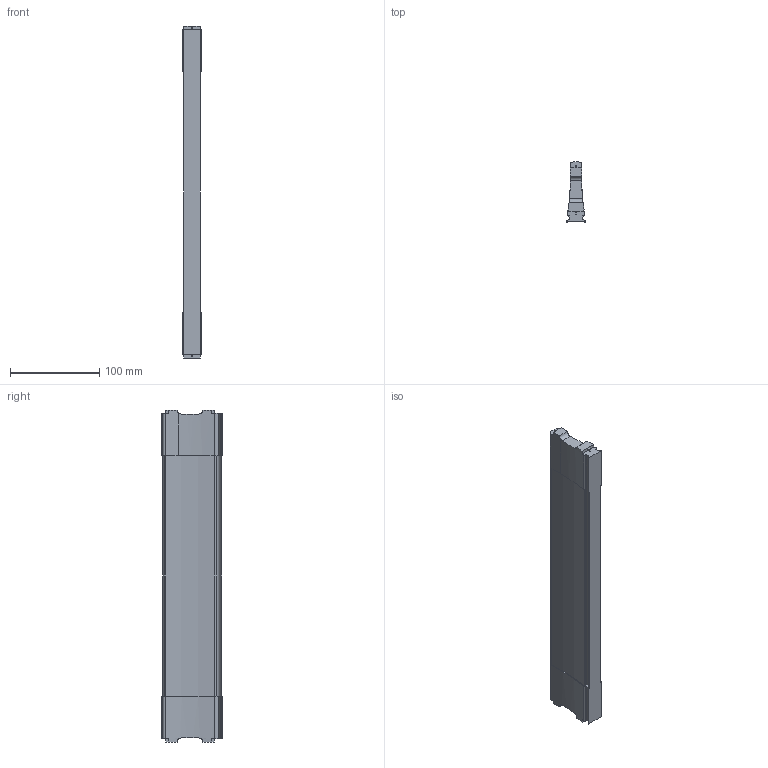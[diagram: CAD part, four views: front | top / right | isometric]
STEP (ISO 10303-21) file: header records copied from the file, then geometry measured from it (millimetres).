
FILE_DESCRIPTION (( 'STEP AP214' ), '1' );
FILE_NAME ('Traverse DWD XP NL400 Mass X368,4_montiert.step', '2010-09-21T13:16:48', ( 'grass' ), ( '' ), 'SwSTEP 2.0', 'SolidWorks 2010', '' );
FILE_SCHEMA (( 'AUTOMOTIVE_DESIGN' ));
Length unit declared in the file: millimetre
Products named in the file (1): Traverse DWD XP NL400 Mass X368,4_montiert
Bounding box: 21.4 x 67.5 x 373 mm (x, y, z)
Volume: 313951.6 mm3; surface area: 65521.2 mm2
Topology: 1 solids, 1 shells, 125 faces, 369 edges, 246 vertices
Faces by surface type: cylinder 68, plane 57
Entity records: 4377 total; most frequent: CARTESIAN_POINT 879, DIRECTION 753, ORIENTED_EDGE 738, EDGE_CURVE 369, AXIS2_PLACEMENT_3D 268, VERTEX_POINT 246, VECTOR 217, LINE 217
